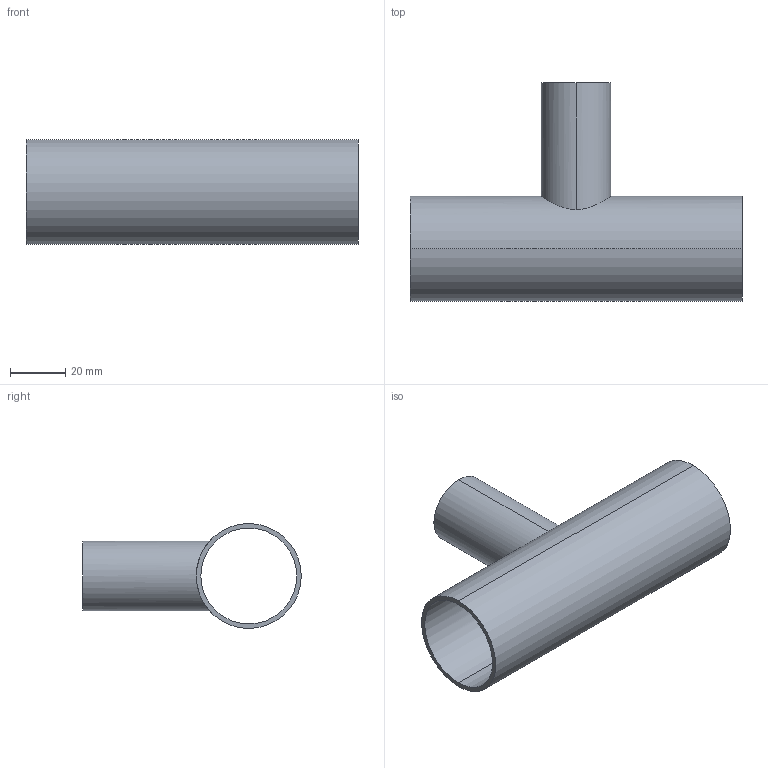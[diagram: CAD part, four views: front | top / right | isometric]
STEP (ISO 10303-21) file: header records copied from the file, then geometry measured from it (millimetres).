
FILE_DESCRIPTION (( 'STEP AP214' ), '1' );
FILE_NAME ('TE7RWWW6L1.5x1.0-...STEP', '2016-05-24T04:11:16', ( 'eran' ), ( '' ), 'SwSTEP 2.0', 'SolidWorks 2016', '' );
FILE_SCHEMA (( 'AUTOMOTIVE_DESIGN' ));
Length unit declared in the file: millimetre
Products named in the file (1): TE7RWWW6L1.5x1.0-..
Bounding box: 120.6 x 79.35 x 38.1 mm (x, y, z)
Volume: 27447.1 mm3; surface area: 33762.9 mm2
Topology: 1 solids, 1 shells, 11 faces, 24 edges, 16 vertices
Faces by surface type: cylinder 8, plane 3
Entity records: 542 total; most frequent: CARTESIAN_POINT 250, DIRECTION 56, ORIENTED_EDGE 48, EDGE_CURVE 24, AXIS2_PLACEMENT_3D 24, VERTEX_POINT 16, EDGE_LOOP 16, CIRCLE 12
